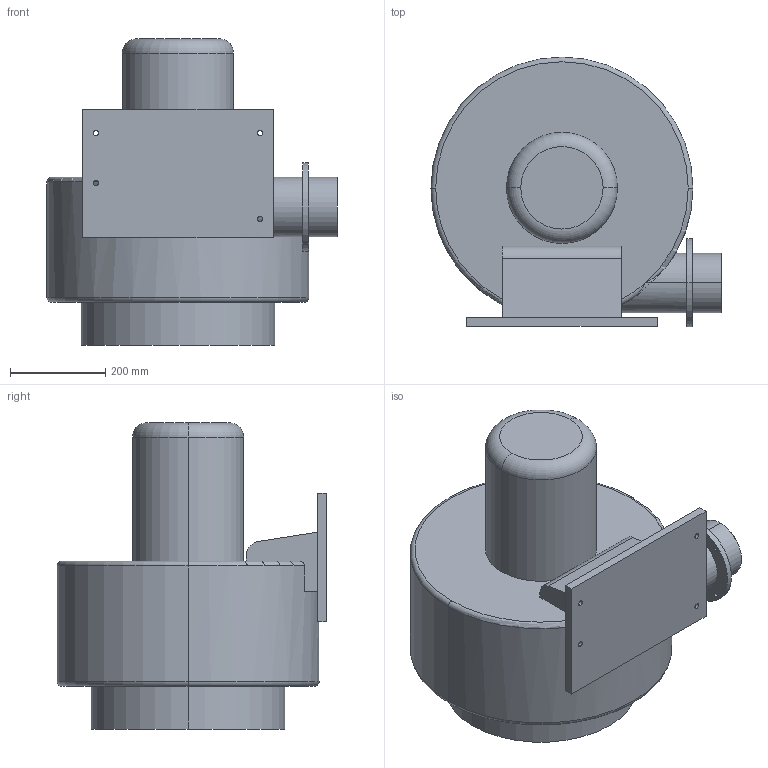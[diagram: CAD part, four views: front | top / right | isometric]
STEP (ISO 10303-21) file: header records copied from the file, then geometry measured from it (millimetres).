
FILE_DESCRIPTION (( 'STEP AP203' ), '1' );
FILE_NAME ('3700-125-3.STEP', '2019-05-09T03:27:42', ( 'User' ), ( 'www.dadighost.com' ), 'SwSTEP 2.0', 'SolidWorks 2014', '' );
FILE_SCHEMA (( 'CONFIG_CONTROL_DESIGN' ));
Length unit declared in the file: millimetre
Products named in the file (1): 3700-125-3
Bounding box: 609 x 566.5 x 643 mm (x, y, z)
Volume: 90371901.2 mm3; surface area: 1596228.2 mm2
Topology: 1 solids, 1 shells, 63 faces, 160 edges, 104 vertices
Faces by surface type: cylinder 33, plane 21, torus 9
Entity records: 2363 total; most frequent: CARTESIAN_POINT 675, DIRECTION 357, ORIENTED_EDGE 320, EDGE_CURVE 160, AXIS2_PLACEMENT_3D 145, VERTEX_POINT 104, EDGE_LOOP 84, CIRCLE 81
